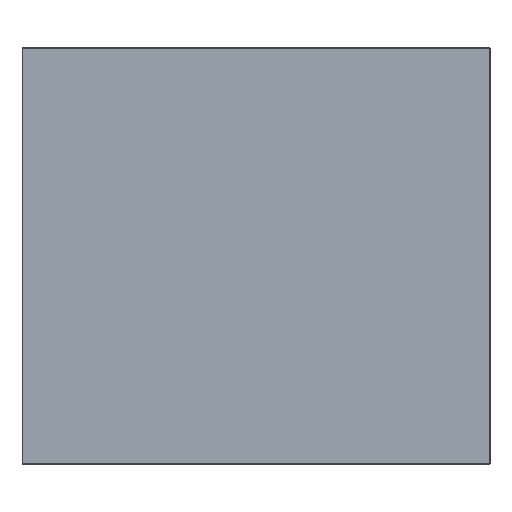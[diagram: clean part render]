
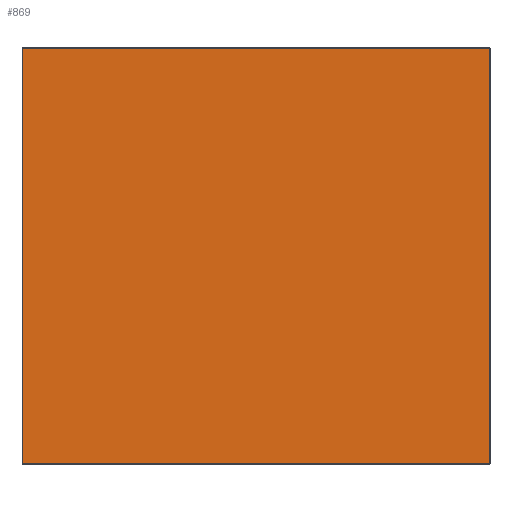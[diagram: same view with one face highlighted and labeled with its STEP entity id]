
A CAD part, top view. The second image highlights one B-rep face of the part: STEP entity #869.
In plain terms, the highlighted planar face has unit normal (0, 0, 1).
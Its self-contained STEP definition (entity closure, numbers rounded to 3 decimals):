
#23 = DIRECTION ( 'NONE',  ( -1., 0., 0. ) ) ;
#44 = CARTESIAN_POINT ( 'NONE',  ( 449.5, 0., 4. ) ) ;
#67 = LINE ( 'NONE', #1175, #1241 ) ;
#117 = EDGE_CURVE ( 'NONE', #1102, #1065, #67, .T. ) ;
#184 = EDGE_CURVE ( 'NONE', #381, #1102, #304, .T. ) ;
#219 = CARTESIAN_POINT ( 'NONE',  ( -449.5, 0., 4. ) ) ;
#253 = EDGE_LOOP ( 'NONE', ( #587, #1124, #605, #1068 ) ) ;
#256 = CARTESIAN_POINT ( 'NONE',  ( 0., 0., 4. ) ) ;
#268 = DIRECTION ( 'NONE',  ( -1., 0., 0. ) ) ;
#304 = LINE ( 'NONE', #44, #962 ) ;
#342 = FACE_OUTER_BOUND ( 'NONE', #253, .T. ) ;
#381 = VERTEX_POINT ( 'NONE', #1107 ) ;
#385 = CARTESIAN_POINT ( 'NONE',  ( 449.5, 399.5, 4. ) ) ;
#484 = CARTESIAN_POINT ( 'NONE',  ( 0., -399.5, 4. ) ) ;
#543 = EDGE_CURVE ( 'NONE', #1065, #1282, #1311, .T. ) ;
#587 = ORIENTED_EDGE ( 'NONE', *, *, #184, .T. ) ;
#605 = ORIENTED_EDGE ( 'NONE', *, *, #543, .T. ) ;
#615 = DIRECTION ( 'NONE',  ( 0., 1., 0. ) ) ;
#828 = CARTESIAN_POINT ( 'NONE',  ( -449.5, 399.5, 4. ) ) ;
#849 = VECTOR ( 'NONE', #1012, 1000. ) ;
#869 = ADVANCED_FACE ( 'NONE', ( #342 ), #1041, .F. ) ;
#877 = CARTESIAN_POINT ( 'NONE',  ( -449.5, -399.5, 4. ) ) ;
#925 = LINE ( 'NONE', #484, #1161 ) ;
#962 = VECTOR ( 'NONE', #615, 1000. ) ;
#963 = EDGE_CURVE ( 'NONE', #1282, #381, #925, .T. ) ;
#1012 = DIRECTION ( 'NONE',  ( 0., -1., 0. ) ) ;
#1041 = PLANE ( 'NONE',  #1174 ) ;
#1065 = VERTEX_POINT ( 'NONE', #828 ) ;
#1068 = ORIENTED_EDGE ( 'NONE', *, *, #963, .T. ) ;
#1102 = VERTEX_POINT ( 'NONE', #385 ) ;
#1107 = CARTESIAN_POINT ( 'NONE',  ( 449.5, -399.5, 4. ) ) ;
#1124 = ORIENTED_EDGE ( 'NONE', *, *, #117, .T. ) ;
#1161 = VECTOR ( 'NONE', #1381, 1000. ) ;
#1174 = AXIS2_PLACEMENT_3D ( 'NONE', #256, #1254, #23 ) ;
#1175 = CARTESIAN_POINT ( 'NONE',  ( 0., 399.5, 4. ) ) ;
#1241 = VECTOR ( 'NONE', #268, 1000. ) ;
#1254 = DIRECTION ( 'NONE',  ( 0., 0., -1. ) ) ;
#1282 = VERTEX_POINT ( 'NONE', #877 ) ;
#1311 = LINE ( 'NONE', #219, #849 ) ;
#1381 = DIRECTION ( 'NONE',  ( 1., 0., 0. ) ) ;
